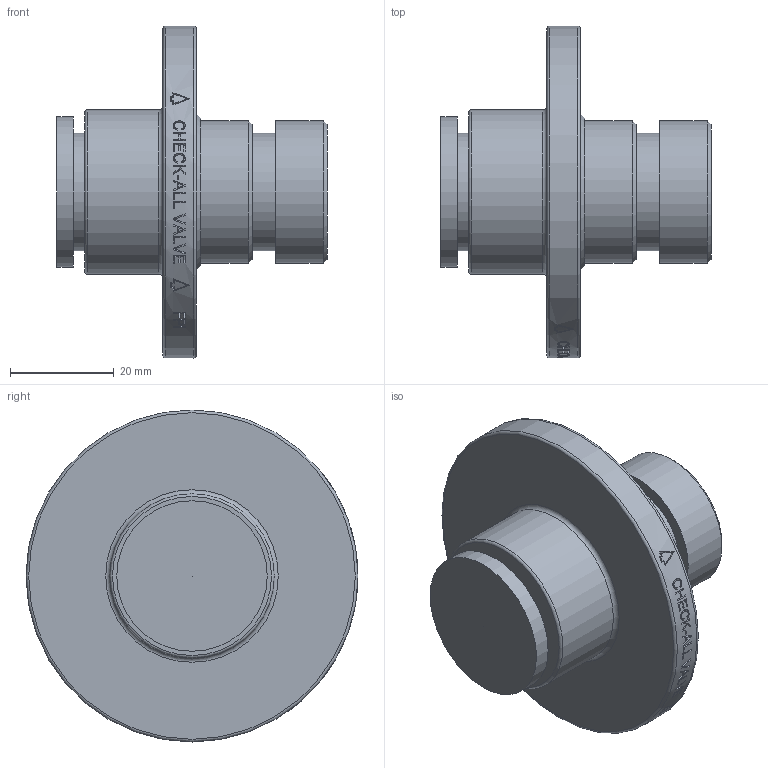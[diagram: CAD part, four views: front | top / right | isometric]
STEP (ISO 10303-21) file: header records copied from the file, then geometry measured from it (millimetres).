
FILE_DESCRIPTION( ( 'Unknown' ), '1' );
FILE_NAME( 'Y:/ENGR/3D Solid Edge Models/FP/FP STEP/FPI.stp', 'Unknown', ( 'Unknown' ), ( 'Unknown' ), 'PSStep 14.0', 'Unknown', ' ' );
FILE_SCHEMA( ( 'AUTOMOTIVE_DESIGN { 1 0 10303 214 1 1 1 1 }' ) );
Length unit declared in the file: millimetre
Products named in the file (1): 1
Bounding box: 52.02 x 63.9 x 63.9 mm (x, y, z)
Volume: 49466.9 mm3; surface area: 12673.4 mm2
Topology: 1 solids, 1 shells, 209 faces, 528 edges, 348 vertices
Faces by surface type: plane 124, bspline 43, cylinder 31, cone 7, torus 4
Full cylindrical faces by diameter (mm): 22.606 x2, 27.381 x2, 28.956 x1, 31.623 x1, 63.865 x1
Entity records: 9146 total; most frequent: CARTESIAN_POINT 3580, ORIENTED_EDGE 1016, EDGE_CURVE 508, B_SPLINE_CURVE_WITH_KNOTS 486, DIRECTION 378, VERTEX_POINT 347, EDGE_LOOP 254, FACE_OUTER_BOUND 220
